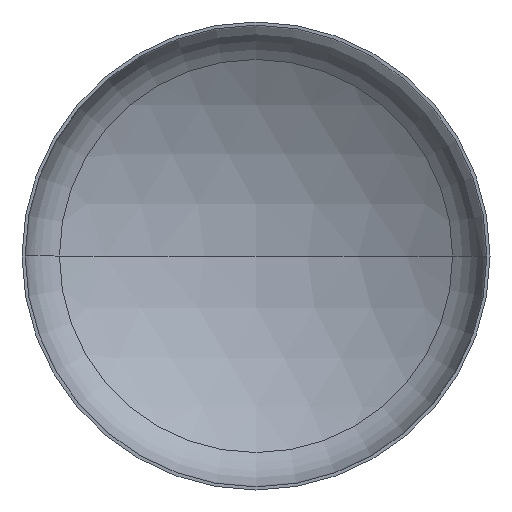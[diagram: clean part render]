
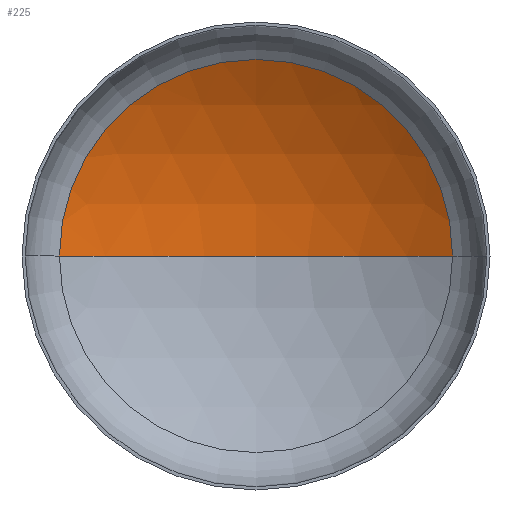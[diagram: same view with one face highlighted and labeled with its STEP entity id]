
A CAD part, front view. The second image highlights one B-rep face of the part: STEP entity #225.
In plain terms, the highlighted spherical face has radius 3040 mm.
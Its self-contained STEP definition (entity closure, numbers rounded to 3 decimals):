
#3 = VERTEX_POINT ( 'NONE', #115 ) ;
#18 = ORIENTED_EDGE ( 'NONE', *, *, #184, .T. ) ;
#42 = ORIENTED_EDGE ( 'NONE', *, *, #188, .F. ) ;
#52 = ORIENTED_EDGE ( 'NONE', *, *, #185, .T. ) ;
#55 = EDGE_LOOP ( 'NONE', ( #42, #52, #18 ) ) ;
#89 = VERTEX_POINT ( 'NONE', #146 ) ;
#102 = AXIS2_PLACEMENT_3D ( 'NONE', #267, #273, #265 ) ;
#115 = CARTESIAN_POINT ( 'NONE',  ( 1596.155, 582.876, 0. ) ) ;
#117 = AXIS2_PLACEMENT_3D ( 'NONE', #138, #373, #218 ) ;
#119 = VERTEX_POINT ( 'NONE', #231 ) ;
#122 = AXIS2_PLACEMENT_3D ( 'NONE', #389, #395, #137 ) ;
#124 = AXIS2_PLACEMENT_3D ( 'NONE', #182, #380, #356 ) ;
#137 = DIRECTION ( 'NONE',  ( -1., 0., 0. ) ) ;
#138 = CARTESIAN_POINT ( 'NONE',  ( 0., -2004.379, 0. ) ) ;
#146 = CARTESIAN_POINT ( 'NONE',  ( -1596.155, 582.876, 0. ) ) ;
#182 = CARTESIAN_POINT ( 'NONE',  ( 0., 582.876, 0. ) ) ;
#184 = EDGE_CURVE ( 'NONE', #3, #89, #407, .T. ) ;
#185 = EDGE_CURVE ( 'NONE', #119, #3, #342, .T. ) ;
#188 = EDGE_CURVE ( 'NONE', #119, #89, #279, .T. ) ;
#218 = DIRECTION ( 'NONE',  ( 1., 0., 0. ) ) ;
#225 = ADVANCED_FACE ( 'NONE', ( #396 ), #402, .F. ) ;
#231 = CARTESIAN_POINT ( 'NONE',  ( 0., 1035.621, 0. ) ) ;
#265 = DIRECTION ( 'NONE',  ( -1., 0., 0. ) ) ;
#267 = CARTESIAN_POINT ( 'NONE',  ( 0., -2004.379, 0. ) ) ;
#273 = DIRECTION ( 'NONE',  ( 0., 0., -1. ) ) ;
#279 = CIRCLE ( 'NONE', #117, 3040. ) ;
#342 = CIRCLE ( 'NONE', #122, 3040. ) ;
#356 = DIRECTION ( 'NONE',  ( 1., 0., 0. ) ) ;
#373 = DIRECTION ( 'NONE',  ( 0., 0., 1. ) ) ;
#380 = DIRECTION ( 'NONE',  ( 0., -1., 0. ) ) ;
#389 = CARTESIAN_POINT ( 'NONE',  ( 0., -2004.379, 0. ) ) ;
#395 = DIRECTION ( 'NONE',  ( 0., 0., -1. ) ) ;
#396 = FACE_OUTER_BOUND ( 'NONE', #55, .T. ) ;
#402 = SPHERICAL_SURFACE ( 'NONE', #102, 3040. ) ;
#407 = CIRCLE ( 'NONE', #124, 1596.155 ) ;
